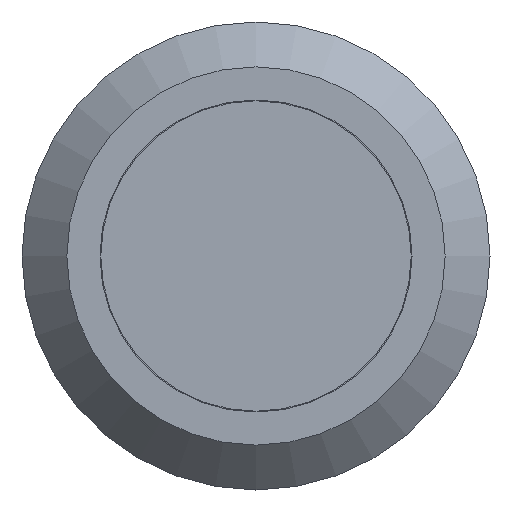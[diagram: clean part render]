
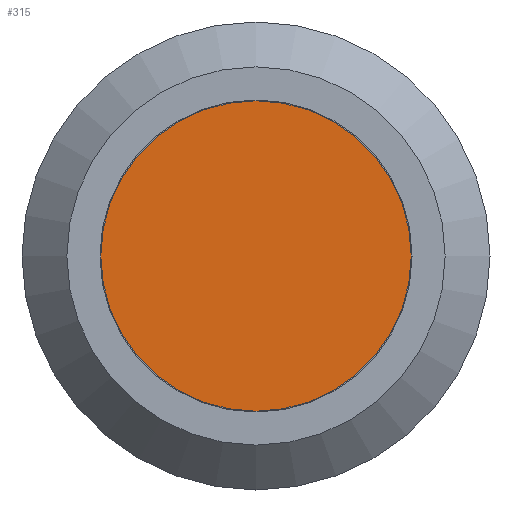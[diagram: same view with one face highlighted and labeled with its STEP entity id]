
A CAD part, front view. The second image highlights one B-rep face of the part: STEP entity #315.
In plain terms, the highlighted planar face has unit normal (0, -1, 0).
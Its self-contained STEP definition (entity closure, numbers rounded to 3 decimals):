
#96=ORIENTED_EDGE('',*,*,#164,.T.);
#164=EDGE_CURVE('',#202,#202,#223,.T.);
#202=VERTEX_POINT('',#512);
#223=CIRCLE('',#357,3.98);
#246=EDGE_LOOP('',(#96));
#276=FACE_BOUND('',#246,.T.);
#294=PLANE('',#358);
#315=ADVANCED_FACE('',(#276),#294,.F.);
#357=AXIS2_PLACEMENT_3D('',#511,#416,#417);
#358=AXIS2_PLACEMENT_3D('',#513,#418,#419);
#416=DIRECTION('',(0.,-1.,0.));
#417=DIRECTION('',(1.,0.,0.));
#418=DIRECTION('',(0.,1.,0.));
#419=DIRECTION('',(-1.,0.,0.));
#511=CARTESIAN_POINT('',(0.,0.,0.));
#512=CARTESIAN_POINT('',(3.98,0.,0.));
#513=CARTESIAN_POINT('',(3.98,0.,0.));
